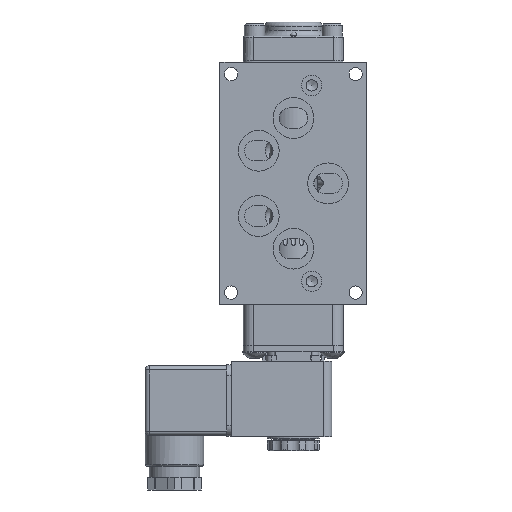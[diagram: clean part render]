
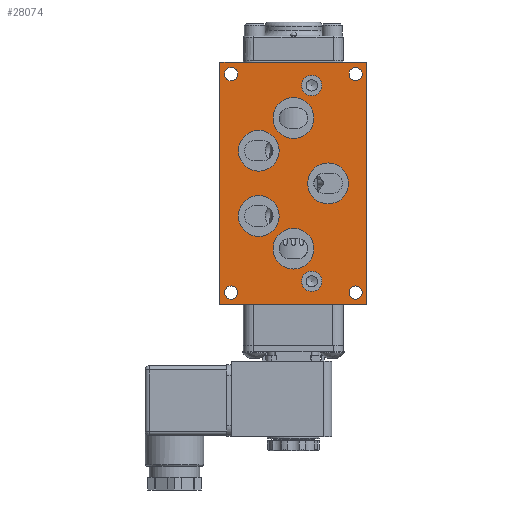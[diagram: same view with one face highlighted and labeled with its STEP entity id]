
A CAD part, front view. The second image highlights one B-rep face of the part: STEP entity #28074.
In plain terms, the highlighted planar face has unit normal (0, -1, 0).
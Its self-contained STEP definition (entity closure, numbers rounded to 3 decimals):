
#830=LINE('',#45018,#2657);
#857=LINE('',#45368,#2684);
#913=LINE('',#45981,#2740);
#914=LINE('',#45985,#2741);
#2657=VECTOR('',#35359,5.715);
#2684=VECTOR('',#35456,5.715);
#2740=VECTOR('',#35924,9.421);
#2741=VECTOR('',#35931,9.421);
#4642=PLANE('',#30545);
#5696=FACE_BOUND('',#8679,.T.);
#5697=FACE_BOUND('',#8680,.T.);
#5698=FACE_BOUND('',#8681,.T.);
#5699=FACE_BOUND('',#8682,.T.);
#5700=FACE_BOUND('',#8683,.T.);
#5701=FACE_BOUND('',#8684,.T.);
#5702=FACE_BOUND('',#8685,.T.);
#5703=FACE_BOUND('',#8686,.T.);
#5704=FACE_BOUND('',#8687,.T.);
#5705=FACE_BOUND('',#8688,.T.);
#5706=FACE_BOUND('',#8689,.T.);
#6669=FACE_OUTER_BOUND('',#8678,.T.);
#8678=EDGE_LOOP('',(#20828,#20829,#20830,#20831));
#8679=EDGE_LOOP('',(#20832));
#8680=EDGE_LOOP('',(#20833));
#8681=EDGE_LOOP('',(#20834));
#8682=EDGE_LOOP('',(#20835));
#8683=EDGE_LOOP('',(#20836));
#8684=EDGE_LOOP('',(#20837));
#8685=EDGE_LOOP('',(#20838));
#8686=EDGE_LOOP('',(#20839));
#8687=EDGE_LOOP('',(#20840));
#8688=EDGE_LOOP('',(#20841));
#8689=EDGE_LOOP('',(#20842));
#10573=CIRCLE('',#30485,0.396);
#10577=CIRCLE('',#30493,0.396);
#10579=CIRCLE('',#30498,0.794);
#10581=CIRCLE('',#30502,0.794);
#10583=CIRCLE('',#30506,0.794);
#10585=CIRCLE('',#30510,0.794);
#10587=CIRCLE('',#30514,0.794);
#10589=CIRCLE('',#30518,0.258);
#10592=CIRCLE('',#30523,0.258);
#10595=CIRCLE('',#30528,0.258);
#10598=CIRCLE('',#30533,0.258);
#12346=VERTEX_POINT('',#45014);
#12348=VERTEX_POINT('',#45017);
#12404=VERTEX_POINT('',#45364);
#12406=VERTEX_POINT('',#45367);
#12503=VERTEX_POINT('',#45877);
#12507=VERTEX_POINT('',#45889);
#12509=VERTEX_POINT('',#45896);
#12511=VERTEX_POINT('',#45902);
#12513=VERTEX_POINT('',#45908);
#12515=VERTEX_POINT('',#45914);
#12517=VERTEX_POINT('',#45920);
#12520=VERTEX_POINT('',#45929);
#12524=VERTEX_POINT('',#45940);
#12528=VERTEX_POINT('',#45951);
#12532=VERTEX_POINT('',#45962);
#15317=EDGE_CURVE('',#12348,#12346,#830,.T.);
#15377=EDGE_CURVE('',#12406,#12404,#857,.T.);
#15499=EDGE_CURVE('',#12503,#12503,#10573,.T.);
#15503=EDGE_CURVE('',#12507,#12507,#10577,.T.);
#15505=EDGE_CURVE('',#12509,#12509,#10579,.T.);
#15507=EDGE_CURVE('',#12511,#12511,#10581,.T.);
#15509=EDGE_CURVE('',#12513,#12513,#10583,.T.);
#15511=EDGE_CURVE('',#12515,#12515,#10585,.T.);
#15513=EDGE_CURVE('',#12517,#12517,#10587,.T.);
#15517=EDGE_CURVE('',#12520,#12520,#10589,.T.);
#15522=EDGE_CURVE('',#12524,#12524,#10592,.T.);
#15527=EDGE_CURVE('',#12528,#12528,#10595,.T.);
#15532=EDGE_CURVE('',#12532,#12532,#10598,.T.);
#15542=EDGE_CURVE('',#12346,#12406,#913,.T.);
#15543=EDGE_CURVE('',#12404,#12348,#914,.T.);
#20828=ORIENTED_EDGE('',*,*,#15317,.T.);
#20829=ORIENTED_EDGE('',*,*,#15542,.T.);
#20830=ORIENTED_EDGE('',*,*,#15377,.T.);
#20831=ORIENTED_EDGE('',*,*,#15543,.T.);
#20832=ORIENTED_EDGE('',*,*,#15499,.T.);
#20833=ORIENTED_EDGE('',*,*,#15503,.T.);
#20834=ORIENTED_EDGE('',*,*,#15505,.T.);
#20835=ORIENTED_EDGE('',*,*,#15507,.T.);
#20836=ORIENTED_EDGE('',*,*,#15509,.T.);
#20837=ORIENTED_EDGE('',*,*,#15511,.T.);
#20838=ORIENTED_EDGE('',*,*,#15513,.T.);
#20839=ORIENTED_EDGE('',*,*,#15517,.T.);
#20840=ORIENTED_EDGE('',*,*,#15522,.T.);
#20841=ORIENTED_EDGE('',*,*,#15527,.T.);
#20842=ORIENTED_EDGE('',*,*,#15532,.T.);
#28074=ADVANCED_FACE('',(#6669,#5696,#5697,#5698,#5699,#5700,#5701,#5702,
#5703,#5704,#5705,#5706),#4642,.T.);
#30485=AXIS2_PLACEMENT_3D('',#45878,#35794,#35795);
#30493=AXIS2_PLACEMENT_3D('',#45890,#35810,#35811);
#30498=AXIS2_PLACEMENT_3D('',#45897,#35820,#35821);
#30502=AXIS2_PLACEMENT_3D('',#45903,#35828,#35829);
#30506=AXIS2_PLACEMENT_3D('',#45909,#35836,#35837);
#30510=AXIS2_PLACEMENT_3D('',#45915,#35844,#35845);
#30514=AXIS2_PLACEMENT_3D('',#45921,#35852,#35853);
#30518=AXIS2_PLACEMENT_3D('',#45930,#35862,#35863);
#30523=AXIS2_PLACEMENT_3D('',#45941,#35874,#35875);
#30528=AXIS2_PLACEMENT_3D('',#45952,#35886,#35887);
#30533=AXIS2_PLACEMENT_3D('',#45963,#35898,#35899);
#30545=AXIS2_PLACEMENT_3D('',#45986,#35932,#35933);
#35359=DIRECTION('',(-1.,0.,0.));
#35456=DIRECTION('',(1.,0.,0.));
#35794=DIRECTION('center_axis',(0.,1.,0.));
#35795=DIRECTION('ref_axis',(1.,0.,0.));
#35810=DIRECTION('center_axis',(0.,1.,0.));
#35811=DIRECTION('ref_axis',(1.,0.,0.));
#35820=DIRECTION('center_axis',(0.,1.,0.));
#35821=DIRECTION('ref_axis',(1.,0.,0.));
#35828=DIRECTION('center_axis',(0.,1.,0.));
#35829=DIRECTION('ref_axis',(1.,0.,0.));
#35836=DIRECTION('center_axis',(0.,1.,0.));
#35837=DIRECTION('ref_axis',(1.,0.,0.));
#35844=DIRECTION('center_axis',(0.,1.,0.));
#35845=DIRECTION('ref_axis',(1.,0.,0.));
#35852=DIRECTION('center_axis',(0.,1.,0.));
#35853=DIRECTION('ref_axis',(1.,0.,0.));
#35862=DIRECTION('center_axis',(0.,1.,0.));
#35863=DIRECTION('ref_axis',(1.,0.,0.));
#35874=DIRECTION('center_axis',(0.,1.,0.));
#35875=DIRECTION('ref_axis',(1.,0.,0.));
#35886=DIRECTION('center_axis',(0.,1.,0.));
#35887=DIRECTION('ref_axis',(1.,0.,0.));
#35898=DIRECTION('center_axis',(0.,1.,0.));
#35899=DIRECTION('ref_axis',(1.,0.,0.));
#35924=DIRECTION('',(0.,0.,-1.));
#35931=DIRECTION('',(0.,0.,1.));
#35932=DIRECTION('center_axis',(0.,-1.,0.));
#35933=DIRECTION('ref_axis',(0.,0.,-1.));
#45014=CARTESIAN_POINT('',(-2.858,-1.636,4.71));
#45017=CARTESIAN_POINT('',(2.858,-1.636,4.71));
#45018=CARTESIAN_POINT('',(-2.858,-1.636,4.71));
#45364=CARTESIAN_POINT('',(2.858,-1.636,-4.71));
#45367=CARTESIAN_POINT('',(-2.858,-1.636,-4.71));
#45368=CARTESIAN_POINT('',(-2.858,-1.636,-4.71));
#45877=CARTESIAN_POINT('',(1.11,-1.636,-3.81));
#45878=CARTESIAN_POINT('Origin',(0.714,-1.636,-3.81));
#45889=CARTESIAN_POINT('',(1.11,-1.636,3.81));
#45890=CARTESIAN_POINT('Origin',(0.714,-1.636,3.81));
#45896=CARTESIAN_POINT('',(2.142,-1.636,0.));
#45897=CARTESIAN_POINT('Origin',(1.349,-1.636,0.));
#45902=CARTESIAN_POINT('',(0.794,-1.636,-2.54));
#45903=CARTESIAN_POINT('Origin',(0.,-1.636,-2.54));
#45908=CARTESIAN_POINT('',(0.794,-1.636,2.54));
#45909=CARTESIAN_POINT('Origin',(0.,-1.636,2.54));
#45914=CARTESIAN_POINT('',(-0.555,-1.636,-1.27));
#45915=CARTESIAN_POINT('Origin',(-1.349,-1.636,-1.27));
#45920=CARTESIAN_POINT('',(-0.555,-1.636,1.27));
#45921=CARTESIAN_POINT('Origin',(-1.349,-1.636,1.27));
#45929=CARTESIAN_POINT('',(-2.679,-1.636,4.247));
#45930=CARTESIAN_POINT('Origin',(-2.421,-1.636,4.247));
#45940=CARTESIAN_POINT('',(2.163,-1.636,4.247));
#45941=CARTESIAN_POINT('Origin',(2.421,-1.636,4.247));
#45951=CARTESIAN_POINT('',(2.163,-1.636,-4.247));
#45952=CARTESIAN_POINT('Origin',(2.421,-1.636,-4.247));
#45962=CARTESIAN_POINT('',(-2.679,-1.636,-4.247));
#45963=CARTESIAN_POINT('Origin',(-2.421,-1.636,-4.247));
#45981=CARTESIAN_POINT('',(-2.858,-1.636,0.));
#45985=CARTESIAN_POINT('',(2.858,-1.636,0.));
#45986=CARTESIAN_POINT('Origin',(2.858,-1.636,0.));
